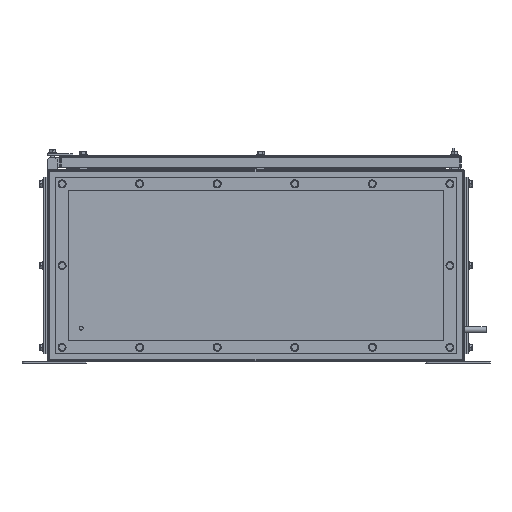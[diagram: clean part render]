
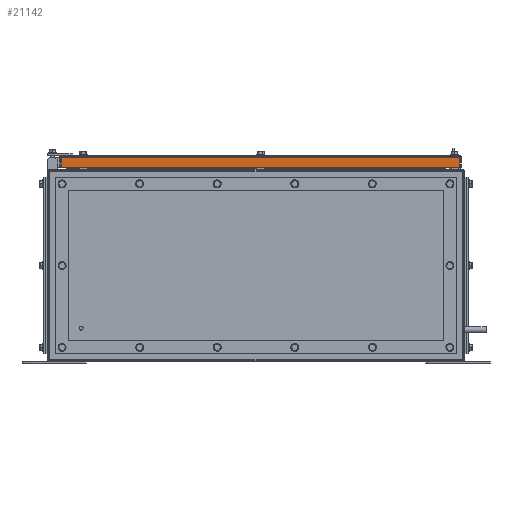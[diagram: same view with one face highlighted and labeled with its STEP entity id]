
A CAD part, front view. The second image highlights one B-rep face of the part: STEP entity #21142.
In plain terms, the highlighted planar face has unit normal (0, -1, 0).
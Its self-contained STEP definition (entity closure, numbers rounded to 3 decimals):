
#1706 = EDGE_CURVE ( 'NONE', #35668, #23317, #8558, .T. ) ;
#2185 = CARTESIAN_POINT ( 'NONE',  ( 11., -472., 0. ) ) ;
#3059 = VECTOR ( 'NONE', #31035, 1000. ) ;
#4857 = EDGE_CURVE ( 'NONE', #23317, #22111, #5396, .T. ) ;
#5396 = LINE ( 'NONE', #18349, #19487 ) ;
#5707 = CARTESIAN_POINT ( 'NONE',  ( 11., -472., 15. ) ) ;
#6314 = ORIENTED_EDGE ( 'NONE', *, *, #22201, .T. ) ;
#8558 = LINE ( 'NONE', #2185, #3059 ) ;
#8690 = LINE ( 'NONE', #37503, #38312 ) ;
#8996 = DIRECTION ( 'NONE',  ( 0., 1., 0. ) ) ;
#11194 = CARTESIAN_POINT ( 'NONE',  ( 14., -472., 0. ) ) ;
#16944 = ORIENTED_EDGE ( 'NONE', *, *, #4857, .T. ) ;
#18349 = CARTESIAN_POINT ( 'NONE',  ( 635., -472., 18. ) ) ;
#18357 = CARTESIAN_POINT ( 'NONE',  ( 11., -472., 18. ) ) ;
#18657 = DIRECTION ( 'NONE',  ( -1., 0., 0. ) ) ;
#19487 = VECTOR ( 'NONE', #22138, 1000. ) ;
#20178 = CARTESIAN_POINT ( 'NONE',  ( 635., -472., 0. ) ) ;
#21142 = ADVANCED_FACE ( 'NONE', ( #27878 ), #40763, .F. ) ;
#22111 = VERTEX_POINT ( 'NONE', #31359 ) ;
#22138 = DIRECTION ( 'NONE',  ( 0., 0., 1. ) ) ;
#22201 = EDGE_CURVE ( 'NONE', #22111, #35631, #32184, .T. ) ;
#23317 = VERTEX_POINT ( 'NONE', #20178 ) ;
#23722 = DIRECTION ( 'NONE',  ( 0., 0., 1. ) ) ;
#23809 = ORIENTED_EDGE ( 'NONE', *, *, #40811, .T. ) ;
#25861 = AXIS2_PLACEMENT_3D ( 'NONE', #18357, #8996, #23722 ) ;
#27749 = EDGE_LOOP ( 'NONE', ( #27928, #16944, #6314, #23809 ) ) ;
#27878 = FACE_OUTER_BOUND ( 'NONE', #27749, .T. ) ;
#27928 = ORIENTED_EDGE ( 'NONE', *, *, #1706, .T. ) ;
#30279 = CARTESIAN_POINT ( 'NONE',  ( 14., -472., 15. ) ) ;
#31035 = DIRECTION ( 'NONE',  ( 1., 0., 0. ) ) ;
#31359 = CARTESIAN_POINT ( 'NONE',  ( 635., -472., 15. ) ) ;
#32184 = LINE ( 'NONE', #5707, #32678 ) ;
#32678 = VECTOR ( 'NONE', #18657, 1000. ) ;
#34546 = DIRECTION ( 'NONE',  ( 0., 0., -1. ) ) ;
#35631 = VERTEX_POINT ( 'NONE', #30279 ) ;
#35668 = VERTEX_POINT ( 'NONE', #11194 ) ;
#37503 = CARTESIAN_POINT ( 'NONE',  ( 14., -472., 18. ) ) ;
#38312 = VECTOR ( 'NONE', #34546, 1000. ) ;
#40763 = PLANE ( 'NONE',  #25861 ) ;
#40811 = EDGE_CURVE ( 'NONE', #35631, #35668, #8690, .T. ) ;
